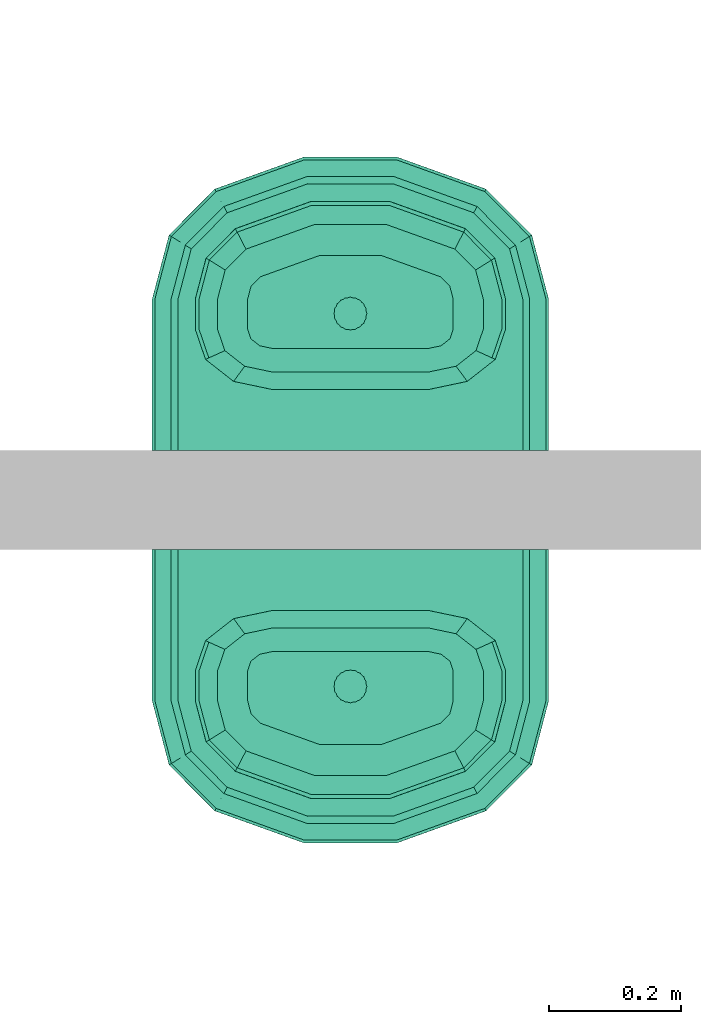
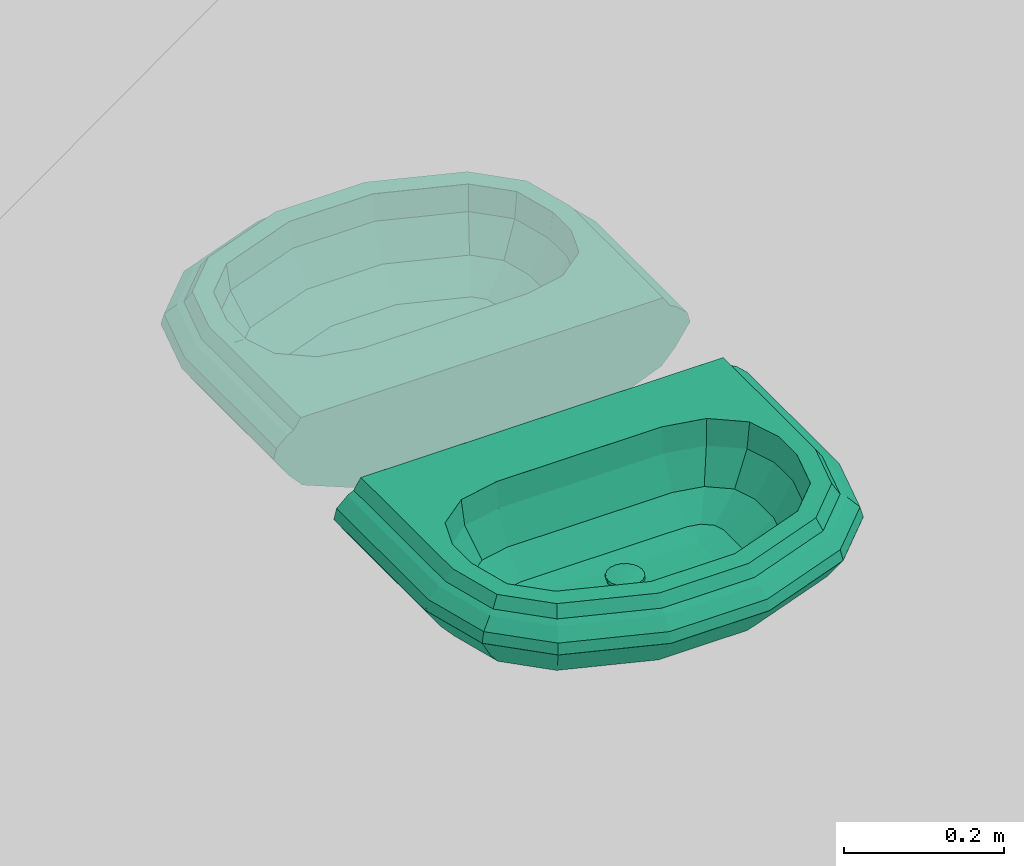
# One storey, part 39 of 48: 2 distribution flow elements.
"""IFC2X3 building model written with IfcOpenShell, lengths in millimetres."""

from ifc_helpers import new_model, entity, si_unit, converted_unit, derived_unit, money_unit, direction, frame, origin_with_axes, place, context, subcontext, project, spatial, open_shell, faceted_brep, surface_model, source, transform, mapped, type_object, element, save


model = new_model("IFC2X3")

# Units and contexts
model_context = context("Model", 3, precision=0.01, world=origin_with_axes(), true_north=direction((0.0, 1.0)))
body_context = subcontext(model_context, "Body", "Model", "MODEL_VIEW")
ifc_project = project(units=[si_unit("LENGTHUNIT", "METRE", prefix="MILLI"), si_unit("AREAUNIT", "SQUARE_METRE"), si_unit("VOLUMEUNIT", "CUBIC_METRE"), converted_unit("PLANEANGLEUNIT", "DEGREE", entity("IfcPlaneAngleMeasure", 0.0174532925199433), si_unit("PLANEANGLEUNIT", "RADIAN"), dimensions=[0, 0, 0, 0, 0, 0, 0]), money_unit("USD"), converted_unit("TIMEUNIT", "Year", entity("IfcTimeMeasure", 31557600.0), si_unit("TIMEUNIT", "SECOND"), dimensions=[0, 0, 1, 0, 0, 0, 0]), si_unit("MASSUNIT", "GRAM", prefix="KILO"), si_unit("THERMODYNAMICTEMPERATUREUNIT", "DEGREE_CELSIUS"), si_unit("LUMINOUSINTENSITYUNIT", "LUMEN"), si_unit("ENERGYUNIT", "JOULE", prefix="MEGA"), derived_unit("THERMALCONDUCTANCEUNIT", [(si_unit("POWERUNIT", "WATT"), 1), (si_unit("LENGTHUNIT", "METRE"), -1), (si_unit("THERMODYNAMICTEMPERATUREUNIT", "KELVIN"), -1)]), derived_unit("SPECIFICHEATCAPACITYUNIT", [(si_unit("ENERGYUNIT", "JOULE"), 1), (si_unit("MASSUNIT", "GRAM", prefix="KILO"), -1), (si_unit("THERMODYNAMICTEMPERATUREUNIT", "KELVIN"), -1)]), derived_unit("MASSDENSITYUNIT", [(si_unit("MASSUNIT", "GRAM", prefix="KILO"), 1), (si_unit("VOLUMEUNIT", "CUBIC_METRE"), -1)])], contexts=[model_context])

# Site, building, storey
site_placement = place(None, origin_with_axes())
site = spatial("IfcSite", under=ifc_project, at=site_placement, Name="Site", CompositionType="ELEMENT")
building_placement = place(site_placement, origin_with_axes())
building = spatial("IfcBuilding", under=site, at=building_placement, Name="Building", CompositionType="ELEMENT")
storey_placement = place(building_placement, frame((0.0, 0.0, 3300.0), z_axis=(0.0, 0.0, 1.0), x_axis=(1.0, 0.0, 0.0)))
storey = spatial("IfcBuildingStorey", under=building, at=storey_placement, Name="1 ETG", CompositionType="ELEMENT", Elevation=3300.0)

# Distribution flow elements
valve_type = type_object("IfcValveType", Name="Servant", PredefinedType="USERDEFINED")
shared_shape = source(origin_with_axes(), body_context, "Body", "SurfaceModel", [
    surface_model("IfcShellBasedSurfaceModel", [(-118.8260869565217, -229.090909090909, 880.0), (-155.5004347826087, -229.090909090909, 885.6030000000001), (-150.3400994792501, -248.7018865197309, 885.6030000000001), (-201.0339130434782, -229.090909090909, 916.175), (-189.4667012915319, -273.050131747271, 916.175), (-136.3112835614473, -262.7940626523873, 885.6030000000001), (-229.0121739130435, -229.090909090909, 962.175), (-213.508226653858, -288.0110260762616, 962.175), (-158.0202400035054, -304.6386188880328, 916.175), (-234.6521739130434, -229.090909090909, 999.9), (-218.3546395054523, -291.0269191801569, 999.9), (-171.3594108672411, -330.3502041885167, 962.175), (-234.7826086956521, -229.090909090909, 1000.0), (-218.4667212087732, -291.0966669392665, 1000.0), (-174.0483887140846, -335.5332762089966, 999.9), (-234.9130434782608, -229.090909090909, 1000.0), (-218.5788029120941, -291.166414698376, 1000.0), (-174.1105759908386, -335.653143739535, 1000.0), (-260.7130434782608, -229.090909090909, 1000.0), (-240.7485638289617, -304.9625214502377, 1000.0), (-174.1727632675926, -335.7730112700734, 1000.0), (-260.8434782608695, -229.090909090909, 1000.0), (-240.8606455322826, -305.0322692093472, 1000.0), (-186.4734066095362, -359.4828088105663, 1000.0), (-260.9739130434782, -229.090909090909, 999.9), (-240.9727272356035, -305.1020169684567, 999.9), (-186.5355938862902, -359.6026763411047, 1000.0), (-271.3017391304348, -229.090909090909, 984.298), (-249.8473565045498, -310.624644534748, 984.298), (-186.5977811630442, -359.722543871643, 999.9), (-280.154347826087, -229.090909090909, 979.6479999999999), (-257.4543417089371, -315.3584249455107, 979.6479999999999), (-191.5217697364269, -369.2136549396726, 984.298), (-295.8195652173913, -229.090909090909, 965.175), (-270.9153542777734, -323.7351308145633, 965.175), (-195.7424202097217, -377.3490642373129, 979.6479999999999), (-299.8408695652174, -229.090909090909, 950.0999999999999), (-274.3708331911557, -325.8854542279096, 950.0999999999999), (-203.2111121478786, -391.7451546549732, 965.175), (-299.971304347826, -229.090909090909, 950.0), (-274.4829148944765, -325.9552019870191, 950.0), (-205.1283458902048, -395.4406706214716, 950.0999999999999), (-299.8408695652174, -229.090909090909, 949.9), (-274.3708331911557, -325.8854542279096, 949.9), (-205.1905331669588, -395.56053815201, 950.0), (-278.1065217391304, -229.090909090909, 918.1), (-255.6946589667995, -314.2633851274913, 918.1), (-205.1283458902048, -395.4406706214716, 949.9), (-258.4943478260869, -229.090909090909, 896.627), (-238.8420540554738, -303.7761120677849, 896.627), (-194.7660799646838, -375.4671440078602, 918.1), (-183.1004347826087, -229.090909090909, 866.162), (-174.0565879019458, -263.460512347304, 866.162), (-185.4156010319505, -357.4438621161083, 896.627), (-118.8260869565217, -229.090909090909, 860.0), (-149.4701113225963, -288.1580321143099, 866.162)], [open_shell([[[0, 1, 2]], [[2, 1, 3, 4]], [[0, 2, 5]], [[4, 3, 6, 7]], [[5, 2, 4, 8]], [[7, 6, 9, 10]], [[8, 4, 7, 11]], [[10, 9, 12, 13]], [[11, 7, 10, 14]], [[13, 12, 15, 16]], [[14, 10, 13, 17]], [[16, 15, 18, 19]], [[17, 13, 16, 20]], [[19, 18, 21, 22]], [[20, 16, 19, 23]], [[22, 21, 24, 25]], [[23, 19, 22, 26]], [[25, 24, 27, 28]], [[26, 22, 25, 29]], [[28, 27, 30, 31]], [[29, 25, 28, 32]], [[31, 30, 33, 34]], [[32, 28, 31, 35]], [[34, 33, 36, 37]], [[35, 31, 34, 38]], [[37, 36, 39, 40]], [[38, 34, 37, 41]], [[40, 39, 42, 43]], [[41, 37, 40, 44]], [[43, 42, 45, 46]], [[44, 40, 43, 47]], [[46, 45, 48, 49]], [[47, 43, 46, 50]], [[49, 48, 51, 52]], [[50, 46, 49, 53]], [[52, 51, 54]], [[53, 49, 52, 55]], [[55, 52, 54]]])]),
    surface_model("IfcShellBasedSurfaceModel", [(118.8260869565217, -229.090909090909, 880.0), (136.3112835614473, -262.7940626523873, 885.6030000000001), (150.3400994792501, -248.7018865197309, 885.6030000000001), (158.0202400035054, -304.6386188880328, 916.175), (189.4667012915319, -273.050131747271, 916.175), (155.5004347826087, -229.090909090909, 885.6030000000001), (171.3594108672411, -330.3502041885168, 962.175), (213.508226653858, -288.0110260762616, 962.175), (201.0339130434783, -229.0909090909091, 916.175), (174.0483887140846, -335.5332762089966, 999.9), (218.3546395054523, -291.026919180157, 999.9), (229.0121739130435, -229.0909090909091, 962.175), (174.1105759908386, -335.653143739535, 1000.0), (218.4667212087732, -291.0966669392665, 1000.0), (234.6521739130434, -229.0909090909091, 999.9), (174.1727632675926, -335.7730112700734, 1000.0), (218.5788029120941, -291.166414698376, 1000.0), (234.7826086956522, -229.0909090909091, 1000.0), (186.4734066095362, -359.4828088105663, 1000.0), (240.7485638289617, -304.9625214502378, 1000.0), (234.9130434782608, -229.0909090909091, 1000.0), (186.5355938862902, -359.6026763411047, 1000.0), (240.8606455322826, -305.0322692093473, 1000.0), (260.7130434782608, -229.0909090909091, 1000.0), (186.5977811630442, -359.7225438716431, 999.9), (240.9727272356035, -305.1020169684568, 999.9), (260.8434782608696, -229.0909090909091, 1000.0), (191.5217697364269, -369.2136549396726, 984.298), (249.8473565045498, -310.6246445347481, 984.298), (260.9739130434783, -229.0909090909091, 999.9), (195.7424202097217, -377.3490642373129, 979.6479999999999), (257.4543417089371, -315.3584249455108, 979.6479999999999), (271.3017391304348, -229.0909090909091, 984.298), (203.2111121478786, -391.7451546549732, 965.175), (270.9153542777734, -323.7351308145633, 965.175), (280.154347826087, -229.0909090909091, 979.6479999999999), (205.1283458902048, -395.4406706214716, 950.0999999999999), (274.3708331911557, -325.8854542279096, 950.0999999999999), (295.8195652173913, -229.0909090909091, 965.175), (205.1905331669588, -395.56053815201, 950.0), (274.4829148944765, -325.9552019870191, 950.0), (299.8408695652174, -229.0909090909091, 950.0999999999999), (205.1283458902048, -395.4406706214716, 949.9), (274.3708331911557, -325.8854542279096, 949.9), (299.971304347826, -229.0909090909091, 950.0), (194.7660799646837, -375.4671440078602, 918.1), (255.6946589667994, -314.2633851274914, 918.1), (299.8408695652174, -229.0909090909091, 949.9), (185.4156010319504, -357.4438621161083, 896.627), (238.8420540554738, -303.776112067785, 896.627), (278.1065217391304, -229.0909090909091, 918.1), (149.4701113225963, -288.1580321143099, 866.162), (174.0565879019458, -263.460512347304, 866.162), (258.4943478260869, -229.0909090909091, 896.627), (118.8260869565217, -229.090909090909, 860.0), (183.1004347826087, -229.090909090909, 866.162)], [open_shell([[[0, 1, 2]], [[2, 1, 3, 4]], [[0, 2, 5]], [[4, 3, 6, 7]], [[5, 2, 4, 8]], [[7, 6, 9, 10]], [[8, 4, 7, 11]], [[10, 9, 12, 13]], [[11, 7, 10, 14]], [[13, 12, 15, 16]], [[14, 10, 13, 17]], [[16, 15, 18, 19]], [[17, 13, 16, 20]], [[19, 18, 21, 22]], [[20, 16, 19, 23]], [[22, 21, 24, 25]], [[23, 19, 22, 26]], [[25, 24, 27, 28]], [[26, 22, 25, 29]], [[28, 27, 30, 31]], [[29, 25, 28, 32]], [[31, 30, 33, 34]], [[32, 28, 31, 35]], [[34, 33, 36, 37]], [[35, 31, 34, 38]], [[37, 36, 39, 40]], [[38, 34, 37, 41]], [[40, 39, 42, 43]], [[41, 37, 40, 44]], [[43, 42, 45, 46]], [[44, 40, 43, 47]], [[46, 45, 48, 49]], [[47, 43, 46, 50]], [[49, 48, 51, 52]], [[50, 46, 49, 53]], [[52, 51, 54]], [[53, 49, 52, 55]], [[55, 52, 54]]])]),
    surface_model("IfcShellBasedSurfaceModel", [(-41.10372390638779, -257.0233893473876, 880.0), (-118.8398858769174, -229.0668508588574, 880.0), (-136.325082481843, -262.7700044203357, 885.6030000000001), (-47.15141310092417, -294.8398552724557, 885.6030000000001), (-158.0340389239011, -304.6145606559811, 916.175), (-54.65999446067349, -341.7913440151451, 916.175), (41.10329481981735, -257.0234643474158, 880.0), (47.15092088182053, -294.8399413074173, 885.6030000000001), (-171.3732097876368, -330.3261459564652, 962.175), (-59.27367775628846, -370.6409081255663, 962.175), (54.65942385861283, -341.7914437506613, 916.175), (118.8395034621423, -229.0670677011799, 880.0), (136.3246438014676, -262.7702531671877, 885.6030000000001), (-174.0621876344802, -335.509217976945, 999.9), (-60.2037274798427, -376.4565498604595, 999.9), (59.27305899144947, -370.6410162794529, 962.175), (158.033530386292, -304.614849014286, 916.175), (-174.1243749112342, -335.6290855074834, 1000.0), (-60.22523649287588, -376.5910466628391, 1000.0), (60.20309900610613, -376.4566597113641, 999.9), (171.3726583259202, -330.3264586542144, 962.175), (-174.1865621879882, -335.7489530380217, 1000.0), (-60.24674550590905, -376.7255434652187, 1000.0), (60.2246077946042, -376.5911565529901, 1000.0), (174.061627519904, -335.5095355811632, 999.9), (-186.4996429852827, -359.4827240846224, 1000.0), (-64.5055300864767, -403.3559103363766, 1000.0), (60.24611658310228, -376.7256533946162, 1000.0), (174.1238145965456, -335.629403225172, 1000.0), (-186.5618302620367, -359.6025916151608, 1000.0), (-64.52703909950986, -403.4904071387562, 1000.0), (64.50485670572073, -403.3560280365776, 1000.0), (174.1860016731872, -335.749270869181, 1000.0), (-186.6240175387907, -359.7224591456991, 999.9), (-64.54854811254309, -403.6249039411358, 999.9), (64.52636549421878, -403.4905248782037, 1000.0), (186.4990428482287, -359.4830643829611, 1000.0), (-191.5355686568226, -369.189596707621, 984.298), (-66.24732996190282, -414.2474613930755, 984.298), (64.54787428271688, -403.6250217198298, 999.9), (186.5612299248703, -359.6029320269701, 1000.0), (-195.7562191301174, -377.3250060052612, 979.6479999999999), (-67.70714667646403, -423.3757593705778, 979.6479999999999), (66.24663839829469, -414.2475822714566, 984.298), (186.623417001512, -359.7227996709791, 999.9), (-203.2249110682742, -391.7210964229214, 965.175), (-70.29037914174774, -439.528825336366, 965.175), (67.70643987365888, -423.3758829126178, 979.6479999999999), (191.5349523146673, -369.1899461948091, 984.298), (-205.1421448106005, -395.4166123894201, 950.0999999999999), (-70.95350201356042, -443.6753617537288, 950.0999999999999), (70.28964537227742, -439.5289535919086, 965.175), (195.7555892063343, -377.3253631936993, 979.6479999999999), (-205.2043320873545, -395.5364799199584, 950.0), (-70.97501102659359, -443.8098585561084, 950.0), (70.95276132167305, -443.6754912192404, 950.0999999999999), (203.2242571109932, -391.7214672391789, 965.175), (-205.1421448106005, -395.4166123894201, 949.9), (-70.95350201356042, -443.6753617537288, 949.9), (70.9742701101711, -443.8099880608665, 950.0), (205.1414846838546, -395.4169867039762, 950.0999999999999), (-194.7798788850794, -375.4430857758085, 918.1), (-67.36945517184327, -421.2641595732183, 918.1), (70.95276132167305, -443.6754912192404, 949.9), (205.2036717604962, -395.5368543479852, 950.0), (-185.4293999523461, -357.4198038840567, 896.627), (-64.13535997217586, -401.0412203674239, 896.627), (67.36875189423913, -421.2642824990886, 918.1), (205.1414846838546, -395.4169867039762, 949.9), (-149.483910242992, -288.1339738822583, 866.162), (-51.70272025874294, -323.2993786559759, 866.162), (64.13469045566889, -401.041337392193, 896.627), (194.7792521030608, -375.4434411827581, 918.1), (-118.8398858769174, -229.0668508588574, 860.0), (-41.10372390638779, -257.0233893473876, 860.0), (51.70218052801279, -323.2994729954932, 866.162), (185.4288032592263, -357.4201422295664, 896.627), (41.10329481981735, -257.0234643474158, 860.0), (149.4834292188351, -288.13424663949, 866.162), (118.8395034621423, -229.0670677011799, 860.0)], [open_shell([[[0, 1, 2, 3]], [[3, 2, 4, 5]], [[6, 0, 3, 7]], [[5, 4, 8, 9]], [[7, 3, 5, 10]], [[11, 6, 7, 12]], [[9, 8, 13, 14]], [[10, 5, 9, 15]], [[12, 7, 10, 16]], [[14, 13, 17, 18]], [[15, 9, 14, 19]], [[16, 10, 15, 20]], [[18, 17, 21, 22]], [[19, 14, 18, 23]], [[20, 15, 19, 24]], [[22, 21, 25, 26]], [[23, 18, 22, 27]], [[24, 19, 23, 28]], [[26, 25, 29, 30]], [[27, 22, 26, 31]], [[28, 23, 27, 32]], [[30, 29, 33, 34]], [[31, 26, 30, 35]], [[32, 27, 31, 36]], [[34, 33, 37, 38]], [[35, 30, 34, 39]], [[36, 31, 35, 40]], [[38, 37, 41, 42]], [[39, 34, 38, 43]], [[40, 35, 39, 44]], [[42, 41, 45, 46]], [[43, 38, 42, 47]], [[44, 39, 43, 48]], [[46, 45, 49, 50]], [[47, 42, 46, 51]], [[48, 43, 47, 52]], [[50, 49, 53, 54]], [[51, 46, 50, 55]], [[52, 47, 51, 56]], [[54, 53, 57, 58]], [[55, 50, 54, 59]], [[56, 51, 55, 60]], [[58, 57, 61, 62]], [[59, 54, 58, 63]], [[60, 55, 59, 64]], [[62, 61, 65, 66]], [[63, 58, 62, 67]], [[64, 59, 63, 68]], [[66, 65, 69, 70]], [[67, 62, 66, 71]], [[68, 63, 67, 72]], [[70, 69, 73, 74]], [[71, 66, 70, 75]], [[72, 67, 71, 76]], [[75, 70, 74, 77]], [[76, 71, 75, 78]], [[78, 75, 77, 79]]])]),
    surface_model("IfcShellBasedSurfaceModel", [(-118.8260869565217, -183.2727272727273, 860.0), (-183.1004347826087, -183.2727272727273, 866.162), (-183.1004347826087, -229.0909090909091, 866.162), (-118.8260869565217, -229.0909090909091, 860.0), (-258.4943478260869, -183.2727272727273, 896.627), (-258.4943478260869, -229.0909090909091, 896.627), (-278.1065217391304, -183.2727272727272, 918.1), (-278.1065217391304, -229.0909090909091, 918.1), (-299.971304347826, -183.2727272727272, 950.0), (-299.971304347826, -229.090909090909, 950.0), (-295.8195652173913, -183.2727272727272, 965.175), (-295.8195652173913, -229.090909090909, 965.175), (-280.154347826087, -183.2727272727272, 979.6479999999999), (-280.154347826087, -229.090909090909, 979.6479999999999), (-271.3017391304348, -183.2727272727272, 984.298), (-271.3017391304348, -229.090909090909, 984.298), (-260.8434782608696, -183.2727272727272, 1000.0), (-260.8434782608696, -229.090909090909, 1000.0), (-234.7826086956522, -183.2727272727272, 1000.0), (-234.7826086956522, -229.090909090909, 1000.0), (-229.0121739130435, -183.2727272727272, 962.175), (-229.0121739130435, -229.0909090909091, 962.175), (-201.0339130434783, -183.2727272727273, 916.175), (-201.0339130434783, -229.0909090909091, 916.175), (-155.5004347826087, -183.2727272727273, 885.6030000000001), (-155.5004347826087, -229.0909090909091, 885.6030000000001), (-118.8260869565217, -183.2727272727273, 880.0), (-118.8260869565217, -229.0909090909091, 880.0)], [open_shell([[[0, 1, 2, 3]], [[1, 4, 5, 2]], [[4, 6, 7, 5]], [[6, 8, 9, 7]], [[8, 10, 11, 9]], [[10, 12, 13, 11]], [[12, 14, 15, 13]], [[14, 16, 17, 15]], [[16, 18, 19, 17]], [[18, 20, 21, 19]], [[20, 22, 23, 21]], [[22, 24, 25, 23]], [[24, 26, 27, 25]]])]),
    surface_model("IfcShellBasedSurfaceModel", [(118.8260869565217, -183.2727272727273, 860.0), (118.8260869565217, -229.0909090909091, 860.0), (183.1004347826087, -229.0909090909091, 866.162), (183.1004347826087, -183.2727272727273, 866.162), (258.4943478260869, -229.0909090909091, 896.627), (258.4943478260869, -183.2727272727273, 896.627), (278.1065217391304, -229.0909090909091, 918.1), (278.1065217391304, -183.2727272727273, 918.1), (299.971304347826, -229.0909090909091, 950.0), (299.971304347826, -183.2727272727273, 950.0), (295.8195652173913, -229.0909090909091, 965.175), (295.8195652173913, -183.2727272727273, 965.175), (280.154347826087, -229.0909090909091, 979.6479999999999), (280.154347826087, -183.2727272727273, 979.6479999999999), (271.3017391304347, -229.0909090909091, 984.298), (271.3017391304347, -183.2727272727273, 984.298), (260.8434782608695, -229.0909090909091, 1000.0), (260.8434782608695, -183.2727272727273, 1000.0), (234.7826086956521, -229.0909090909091, 1000.0), (234.7826086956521, -183.2727272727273, 1000.0), (229.0121739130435, -229.0909090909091, 962.175), (229.0121739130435, -183.2727272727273, 962.175), (201.0339130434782, -229.0909090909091, 916.175), (201.0339130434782, -183.2727272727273, 916.175), (155.5004347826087, -229.0909090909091, 885.6030000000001), (155.5004347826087, -183.2727272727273, 885.6030000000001), (118.8260869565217, -229.0909090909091, 880.0), (118.8260869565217, -183.2727272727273, 880.0)], [open_shell([[[0, 1, 2, 3]], [[3, 2, 4, 5]], [[5, 4, 6, 7]], [[7, 6, 8, 9]], [[9, 8, 10, 11]], [[11, 10, 12, 13]], [[13, 12, 14, 15]], [[15, 14, 16, 17]], [[17, 16, 18, 19]], [[19, 18, 20, 21]], [[21, 20, 22, 23]], [[23, 22, 24, 25]], [[25, 24, 26, 27]]])]),
    surface_model("IfcShellBasedSurfaceModel", [(-118.8260869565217, 0.0, 860.0), (-183.1004347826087, 0.0, 866.162), (-183.1004347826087, -183.2727272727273, 866.162), (-118.8260869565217, -183.2727272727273, 860.0), (-258.4943478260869, 0.0, 896.627), (-258.4943478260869, -183.2727272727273, 896.627), (-278.1065217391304, 0.0, 918.1), (-278.1065217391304, -183.2727272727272, 918.1), (-299.971304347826, 0.0, 950.0), (-299.971304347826, -183.2727272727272, 950.0), (-295.8195652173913, 0.0, 965.175), (-295.8195652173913, -183.2727272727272, 965.175), (-280.154347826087, 0.0, 979.6479999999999), (-280.154347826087, -183.2727272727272, 979.6479999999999), (-271.3017391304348, 0.0, 984.298), (-271.3017391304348, -183.2727272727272, 984.298), (-260.8434782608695, 0.0, 1000.0), (-260.8434782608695, -183.2727272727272, 1000.0)], [open_shell([[[0, 1, 2, 3]], [[1, 4, 5, 2]], [[4, 6, 7, 5]], [[6, 8, 9, 7]], [[8, 10, 11, 9]], [[10, 12, 13, 11]], [[12, 14, 15, 13]], [[14, 16, 17, 15]]])]),
    surface_model("IfcShellBasedSurfaceModel", [(118.8260869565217, 0.0, 860.0), (118.8260869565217, -183.2727272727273, 860.0), (183.1004347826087, -183.2727272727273, 866.162), (183.1004347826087, 0.0, 866.162), (258.4943478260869, -183.2727272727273, 896.627), (258.4943478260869, 0.0, 896.627), (278.1065217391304, -183.2727272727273, 918.1), (278.1065217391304, 0.0, 918.1), (299.971304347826, -183.2727272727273, 950.0), (299.971304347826, 0.0, 950.0), (295.8195652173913, -183.2727272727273, 965.175), (295.8195652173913, 0.0, 965.175), (280.154347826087, -183.2727272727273, 979.6479999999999), (280.154347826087, 0.0, 979.6479999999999), (271.3017391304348, -183.2727272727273, 984.298), (271.3017391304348, 0.0, 984.298), (260.8434782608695, -183.2727272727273, 1000.0), (260.8434782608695, 0.0, 1000.0)], [open_shell([[[0, 1, 2, 3]], [[3, 2, 4, 5]], [[5, 4, 6, 7]], [[7, 6, 8, 9]], [[9, 8, 10, 11]], [[11, 10, 12, 13]], [[13, 12, 14, 15]], [[15, 14, 16, 17]]])]),
    surface_model("IfcShellBasedSurfaceModel", [(-118.8260869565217, 0.0, 860.0), (118.8260869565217, 0.0, 860.0), (118.8260869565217, -229.090909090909, 860.0), (41.0982368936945, -257.0388174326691, 860.0), (-41.09823689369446, -257.0388174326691, 860.0), (-118.8260869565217, -229.090909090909, 860.0)], [open_shell([[[0, 1, 2, 3, 4, 5]]])]),
    surface_model("IfcShellBasedSurfaceModel", [(-118.8379695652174, 0.0, 860.0), (-183.118744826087, 0.0, 866.1626162), (-258.5201972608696, 0.0, 896.6306627), (-278.1343323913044, 0.0, 918.10581), (-300.0013014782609, 0.0, 950.009), (-295.849147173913, 0.0, 965.1855175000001), (-280.1823632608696, 0.0, 979.6599647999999), (-271.3288693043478, 0.0, 984.3104298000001), (-260.8695626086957, 0.0, 1000.014), (260.8695626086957, 0.0, 1000.014), (271.3288693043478, 0.0, 984.3104298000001), (280.1823632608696, 0.0, 979.6599647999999), (295.849147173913, 0.0, 965.1855175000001), (300.0013014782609, 0.0, 950.009), (278.1343323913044, 0.0, 918.10581), (258.5201972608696, 0.0, 896.6306627), (183.118744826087, 0.0, 866.1626162), (118.8379695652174, 0.0, 860.0)], [open_shell([[[0, 1, 2, 3, 4, 5, 6, 7, 8, 9, 10, 11, 12, 13, 14, 15, 16, 17]]])]),
    surface_model("IfcShellBasedSurfaceModel", [(-118.8260869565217, -182.7272727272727, 880.0), (118.8260869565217, -182.7272727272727, 880.0), (118.8260869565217, -229.090909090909, 880.0), (41.0982368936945, -257.0388174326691, 880.0), (-41.09823689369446, -257.0388174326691, 880.0), (-118.8260869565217, -229.090909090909, 880.0), (22.82608695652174, -207.1363636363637, 880.0), (21.70889874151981, -199.762094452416, 880.0), (18.46669226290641, -193.1096701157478, 880.0), (13.41683728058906, -187.8302762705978, 880.0), (7.053648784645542, -184.4406967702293, 880.0), (0.0, -183.2727272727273, 880.0), (-7.053648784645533, -184.4406967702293, 880.0), (-13.41683728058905, -187.8302762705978, 880.0), (-18.4666922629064, -193.1096701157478, 880.0), (-21.70889874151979, -199.762094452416, 880.0), (-22.82608695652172, -207.1363636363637, 880.0), (-21.7088987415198, -214.5106328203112, 880.0), (-18.4666922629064, -221.1630571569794, 880.0), (-13.41683728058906, -226.4424510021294, 880.0), (-7.053648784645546, -229.8320305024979, 880.0), (0.0, -231.0, 880.0), (7.05364878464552, -229.832030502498, 880.0), (13.41683728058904, -226.4424510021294, 880.0), (18.46669226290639, -221.1630571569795, 880.0), (21.70889874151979, -214.5106328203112, 880.0)], [open_shell([[[0, 1, 2, 3, 4, 5], [6, 7, 8, 9, 10, 11, 12, 13, 14, 15, 16, 17, 18, 19, 20, 21, 22, 23, 24, 25]]])]),
    surface_model("IfcShellBasedSurfaceModel", [(-260.8695652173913, -183.2391344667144, 1000.0), (-260.8695652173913, 4.141527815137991e-07, 1000.0), (260.8695652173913, 4.141527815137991e-07, 1000.0), (260.8695652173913, -183.2391344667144, 1000.0), (234.7826086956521, -183.2391344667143, 1000.0), (219.2473805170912, -137.7618617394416, 1000.0), (176.8043478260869, -104.4701875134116, 1000.0), (118.8260869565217, -92.28458901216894, 1000.0), (-118.8260869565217, -92.28458901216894, 1000.0), (-176.8043478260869, -104.4701875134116, 1000.0), (-219.2473805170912, -137.7618617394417, 1000.0), (-234.7826086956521, -183.2391344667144, 1000.0)], [open_shell([[[0, 1, 2, 3, 4, 5, 6, 7, 8, 9, 10, 11]]])]),
    surface_model("IfcShellBasedSurfaceModel", [(-176.8043478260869, -104.5037803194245, 1000.0), (-118.8260869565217, -92.3181818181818, 1000.0), (-118.8260869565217, -96.84442376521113, 962.175), (-173.9191304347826, -108.4236208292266, 962.175), (-118.8260869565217, -118.7901492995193, 916.175), (-159.9299999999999, -127.4291766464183, 916.175), (-219.2473805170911, -137.7954545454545, 1000.0), (-214.2500374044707, -140.0585755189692, 962.175), (-118.8260869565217, -154.5059223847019, 885.6030000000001), (-137.1632608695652, -158.3599434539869, 885.6030000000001), (-190.0201527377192, -151.0314382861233, 916.175), (-234.7826086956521, -183.2727272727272, 1000.0), (-229.0121739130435, -183.2727272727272, 962.175), (-118.8260869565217, -183.2727272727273, 880.0), (-150.5870038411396, -168.8893248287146, 885.6030000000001), (-201.0339130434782, -183.2727272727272, 916.175), (-155.5004347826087, -183.2727272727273, 885.6030000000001)], [open_shell([[[0, 1, 2, 3]], [[3, 2, 4, 5]], [[6, 0, 3, 7]], [[5, 4, 8, 9]], [[7, 3, 5, 10]], [[11, 6, 7, 12]], [[9, 8, 13]], [[10, 5, 9, 14]], [[12, 7, 10, 15]], [[14, 9, 13]], [[15, 10, 14, 16]], [[16, 14, 13]]])]),
    surface_model("IfcShellBasedSurfaceModel", [(219.2473805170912, -137.7954545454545, 1000.0), (234.7826086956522, -183.2727272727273, 1000.0), (229.0121739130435, -183.2727272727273, 962.175), (214.2500374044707, -140.0585755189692, 962.175), (201.0339130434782, -183.2727272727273, 916.175), (190.0201527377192, -151.0314382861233, 916.175), (176.8043478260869, -104.5037803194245, 1000.0), (173.9191304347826, -108.4236208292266, 962.175), (155.5004347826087, -183.2727272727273, 885.6030000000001), (150.5870038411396, -168.8893248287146, 885.6030000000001), (159.93, -127.4291766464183, 916.175), (118.8260869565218, -92.3181818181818, 1000.0), (118.8260869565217, -96.84442376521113, 962.175), (118.8260869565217, -183.2727272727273, 880.0), (137.1632608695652, -158.3599434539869, 885.6030000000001), (118.8260869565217, -118.7901492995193, 916.175), (118.8260869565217, -154.5059223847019, 885.6030000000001)], [open_shell([[[0, 1, 2, 3]], [[3, 2, 4, 5]], [[6, 0, 3, 7]], [[5, 4, 8, 9]], [[7, 3, 5, 10]], [[11, 6, 7, 12]], [[9, 8, 13]], [[10, 5, 9, 14]], [[12, 7, 10, 15]], [[14, 9, 13]], [[15, 10, 14, 16]], [[16, 14, 13]]])]),
    surface_model("IfcShellBasedSurfaceModel", [(118.8260869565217, -92.3181818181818, 1000.0), (118.8260869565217, -96.84442376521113, 962.175), (-118.8260869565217, -96.84442376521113, 962.175), (-118.8260869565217, -92.3181818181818, 1000.0), (118.8260869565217, -118.7901492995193, 916.175), (-118.8260869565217, -118.7901492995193, 916.175), (118.8260869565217, -154.5059223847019, 885.6030000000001), (-118.8260869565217, -154.5059223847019, 885.6030000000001), (118.8260869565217, -183.2727272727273, 880.0), (-118.8260869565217, -183.2727272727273, 880.0)], [open_shell([[[0, 1, 2, 3]], [[1, 4, 5, 2]], [[4, 6, 7, 5]], [[6, 8, 9, 7]]])]),
    faceted_brep([(20.22542485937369, -221.8296313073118, 881.0), (7.725424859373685, -230.9114129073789, 881.0), (-7.725424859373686, -230.9114129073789, 881.0), (-20.22542485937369, -221.8296313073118, 881.0), (-25.0, -207.135, 881.0), (-20.22542485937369, -192.4403686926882, 881.0), (-7.725424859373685, -183.3585870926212, 881.0), (7.725424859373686, -183.3585870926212, 881.0), (20.22542485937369, -192.4403686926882, 881.0), (25.0, -207.135, 881.0), (20.22542485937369, -221.8296313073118, 886.0), (7.725424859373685, -230.9114129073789, 886.0), (-7.725424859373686, -230.9114129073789, 886.0), (-20.22542485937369, -221.8296313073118, 886.0), (-25.0, -207.135, 886.0), (-20.22542485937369, -192.4403686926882, 886.0), (-7.725424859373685, -183.3585870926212, 886.0), (7.725424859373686, -183.3585870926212, 886.0), (20.22542485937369, -192.4403686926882, 886.0), (25.0, -207.135, 886.0)], [[[0, 1, 2, 3, 4, 5, 6, 7, 8, 9]], [[1, 0, 10, 11]], [[2, 1, 11, 12]], [[3, 2, 12, 13]], [[4, 3, 13, 14]], [[5, 4, 14, 15]], [[6, 5, 15, 16]], [[7, 6, 16, 17]], [[8, 7, 17, 18]], [[9, 8, 18, 19]], [[0, 9, 19, 10]], [[10, 19, 18, 17, 16, 15, 14, 13, 12, 11]]]),
    surface_model("IfcShellBasedSurfaceModel", [(0.0, -207.135, 888.0), (0.0, -194.51309443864, 887.4975737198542), (-7.418969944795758, -196.9236638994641, 887.4975737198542), (7.418969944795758, -196.9236638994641, 887.4975737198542), (0.0, -182.135, 886.0), (-14.69463130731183, -186.9095751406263, 886.0), (-12.00414553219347, -203.2346166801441, 887.4975737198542), (12.00414553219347, -203.2346166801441, 887.4975737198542), (14.69463130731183, -186.9095751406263, 886.0), (-23.77641290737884, -199.4095751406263, 886.0), (-12.00414553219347, -211.0353833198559, 887.4975737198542), (12.00414553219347, -211.0353833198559, 887.4975737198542), (23.77641290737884, -199.4095751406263, 886.0), (-23.77641290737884, -214.8604248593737, 886.0), (-7.418969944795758, -217.3463361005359, 887.4975737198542), (7.418969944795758, -217.3463361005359, 887.4975737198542), (23.77641290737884, -214.8604248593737, 886.0), (-14.69463130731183, -227.3604248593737, 886.0), (0.0, -219.75690556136, 887.4975737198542), (14.69463130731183, -227.3604248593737, 886.0), (0.0, -232.135, 886.0)], [open_shell([[[0, 1, 2]], [[0, 3, 1]], [[2, 1, 4, 5]], [[0, 2, 6]], [[0, 7, 3]], [[1, 3, 8, 4]], [[6, 2, 5, 9]], [[0, 6, 10]], [[0, 11, 7]], [[3, 7, 12, 8]], [[10, 6, 9, 13]], [[0, 10, 14]], [[0, 15, 11]], [[7, 11, 16, 12]], [[14, 10, 13, 17]], [[0, 14, 18]], [[0, 18, 15]], [[11, 15, 19, 16]], [[18, 14, 17, 20]], [[15, 18, 20, 19]]])]),
])
for number, where, z_axis, x_axis, name in (
    (1, (10002.33546225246, 25349.74727005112, 100.0000000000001), (0.0, 0.0, 1.0), (0.9999999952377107, 9.759394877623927e-05, 0.0), "FU - 001"),
    (2, (10002.33544127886, 25499.74728440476, 100.0000000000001), (0.0, 0.0, 1.0), (-0.9999999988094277, -4.879697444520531e-05, 0.0), "FU - 001"),
):
    element("IfcDistributionFlowElement", number, at=place(storey_placement, frame(where, z_axis=z_axis, x_axis=x_axis)), inside=storey, type_object=valve_type, Name=name, ObjectType="Distribution Flow Element", context=body_context, shape_type="MappedRepresentation", body=[
        mapped(shared_shape, transform((0.0, 0.0, 0.0))),
    ])

save(model, "model.ifc")
